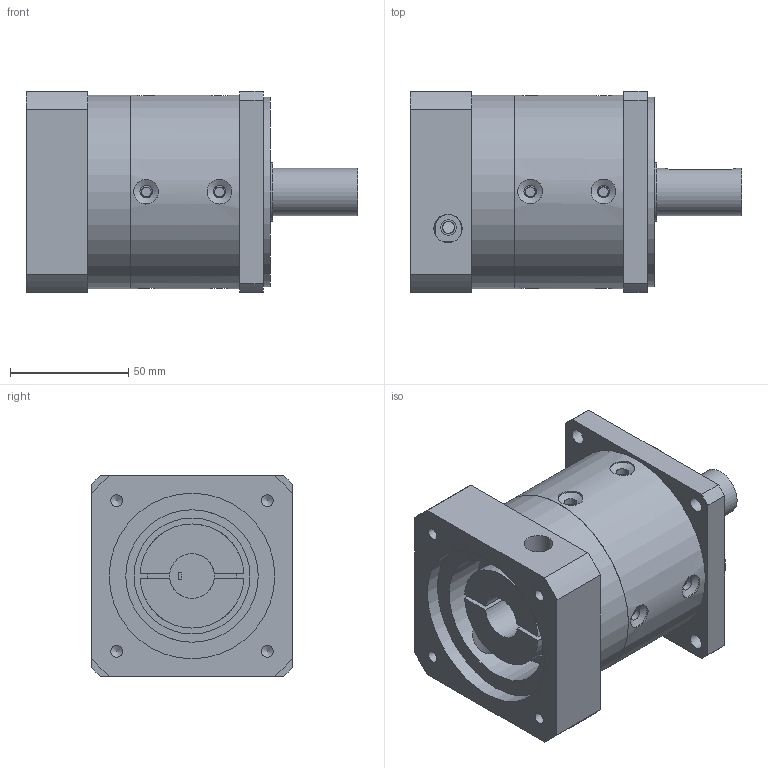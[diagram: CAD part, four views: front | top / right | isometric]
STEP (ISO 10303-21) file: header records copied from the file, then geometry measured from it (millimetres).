
FILE_DESCRIPTION(/* description */ (''),/* implementation_level */ '2;1');
FILE_NAME(/* name */ 'PLF80-L1 19-70-90-M6.stp',/* time_stamp */ '2020-09-11T15:57:11+08:00',/* author */ (''),/* organization */ (''),/* preprocessor_version */ 'ST-DEVELOPER v16.7',/* originating_system */ 'SIEMENS PLM Software NX 12.0',/* authorisation */ '');
FILE_SCHEMA (('AP203_CONFIGURATION_CONTROLLED_3D_DESIGN_OF_MECHANICAL_PARTS_AND_ASSEMBLIES_MIM_LF { 1 0 10303 403 2 1 2}'));
Length unit declared in the file: millimetre
Products named in the file (1): Admi6E8CBE73gyvg
Bounding box: 140.25 x 85 x 85 mm (x, y, z)
Volume: 546050.3 mm3; surface area: 92261.1 mm2
Topology: 2 solids, 4 shells, 153 faces, 378 edges, 259 vertices
Faces by surface type: cylinder 88, plane 52, cone 13
Full cylindrical faces by diameter (mm): 4.2 x8, 5 x6, 5.3 x8, 6.5 x6, 6.8 x1, 10.5 x8, 12 x2, 19 x1, 20 x2, 25 x1, 28 x1, 38 x1, 49 x1, 55.15 x2, 56 x1, 58 x1, 66.4 x2, 70 x1, 72 x3, 80 x1, 82 x2
Entity records: 5507 total; most frequent: CARTESIAN_POINT 2327, DIRECTION 630, ORIENTED_EDGE 486, EDGE_LOOP 290, AXIS2_PLACEMENT_3D 273, FACE_BOUND 251, EDGE_CURVE 243, VERTEX_POINT 206
